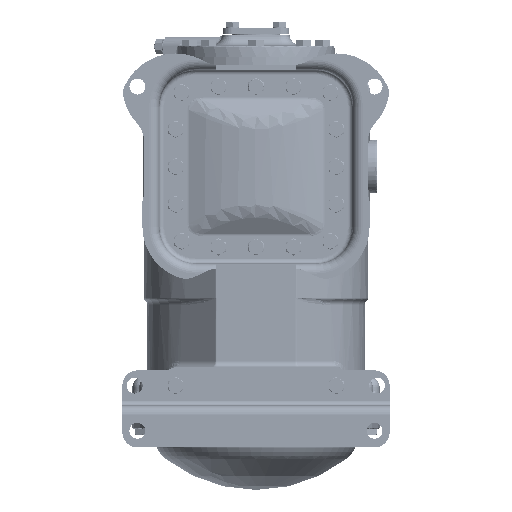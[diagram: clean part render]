
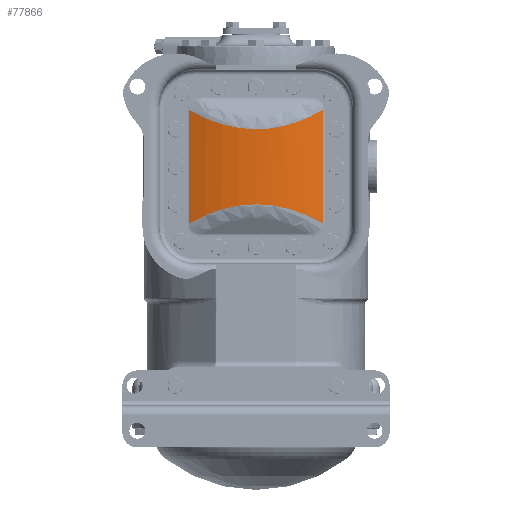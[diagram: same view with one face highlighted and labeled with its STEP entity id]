
A CAD part, front view. The second image highlights one B-rep face of the part: STEP entity #77866.
In plain terms, the highlighted cylindrical face has radius 168.148 mm (diameter 336.296 mm), a partial arc.
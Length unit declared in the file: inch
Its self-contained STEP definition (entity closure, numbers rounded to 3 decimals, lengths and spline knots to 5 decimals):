
#75248=CARTESIAN_POINT('',(7.37121,-0.23228,
-2.00103));
#75263=DIRECTION('',(0.,0.,-1.));
#75264=VECTOR('',#75263,4.24595);
#75265=CARTESIAN_POINT('',(7.37121,-0.23228,
-2.00103));
#75266=LINE('',#75265,#75264);
#75267=CARTESIAN_POINT('',(7.37121,-0.23228,
-6.24697));
#75268=CARTESIAN_POINT('',(7.26402,-0.27592,
-6.1828));
#75269=CARTESIAN_POINT('',(7.04866,-0.35703,
-6.06352));
#75270=CARTESIAN_POINT('',(6.72476,-0.46025,
-5.91175));
#75271=CARTESIAN_POINT('',(6.39901,-0.54605,
-5.7856));
#75272=CARTESIAN_POINT('',(6.07039,-0.61501,
-5.6842));
#75273=CARTESIAN_POINT('',(5.73725,-0.66747,
-5.60706));
#75274=CARTESIAN_POINT('',(5.39685,-0.70336,
-5.55429));
#75275=CARTESIAN_POINT('',(5.04898,-0.72173,
-5.52727));
#75276=CARTESIAN_POINT('',(4.69917,-0.72168,
-5.52735));
#75277=CARTESIAN_POINT('',(4.35154,-0.70322,
-5.55449));
#75278=CARTESIAN_POINT('',(4.01134,-0.66728,
-5.60734));
#75279=CARTESIAN_POINT('',(3.6784,-0.61478,
-5.68454));
#75280=CARTESIAN_POINT('',(3.35003,-0.54582,
-5.78594));
#75281=CARTESIAN_POINT('',(3.02457,-0.46005,
-5.91205));
#75282=CARTESIAN_POINT('',(2.70099,-0.3569,
-6.06372));
#75283=CARTESIAN_POINT('',(2.48586,-0.27587,
-6.18288));
#75284=CARTESIAN_POINT('',(2.37879,-0.23228,
-6.24697));
#75286=DIRECTION('',(0.,0.,1.));
#75287=VECTOR('',#75286,4.24595);
#75288=CARTESIAN_POINT('',(2.37879,-0.23228,
-6.24697));
#75289=LINE('',#75288,#75287);
#75290=CARTESIAN_POINT('',(2.37879,-0.23228,
-2.00103));
#75291=CARTESIAN_POINT('',(2.48582,-0.27585,
-2.0651));
#75292=CARTESIAN_POINT('',(2.70088,-0.35686,
-2.18423));
#75293=CARTESIAN_POINT('',(3.02442,-0.46001,
-2.33588));
#75294=CARTESIAN_POINT('',(3.34992,-0.54579,
-2.46202));
#75295=CARTESIAN_POINT('',(3.67841,-0.61478,
-2.56347));
#75296=CARTESIAN_POINT('',(4.01155,-0.66731,
-2.64071));
#75297=CARTESIAN_POINT('',(4.35203,-0.70327,
-2.69358));
#75298=CARTESIAN_POINT('',(4.69997,-0.72171,
-2.72069));
#75299=CARTESIAN_POINT('',(5.04979,-0.72171,
-2.7207));
#75300=CARTESIAN_POINT('',(5.39738,-0.70331,
-2.69364));
#75301=CARTESIAN_POINT('',(5.73752,-0.66743,
-2.64088));
#75302=CARTESIAN_POINT('',(6.07049,-0.61499,
-2.56377));
#75303=CARTESIAN_POINT('',(6.399,-0.54605,
-2.4624));
#75304=CARTESIAN_POINT('',(6.72471,-0.46027,
-2.33627));
#75305=CARTESIAN_POINT('',(7.04862,-0.35705,
-2.1845));
#75306=CARTESIAN_POINT('',(7.264,-0.27593,
-2.06521));
#75307=CARTESIAN_POINT('',(7.37121,-0.23228,
-2.00103));
#75343=CARTESIAN_POINT('',(2.37879,-0.23228,
-6.24697));
#75494=VERTEX_POINT('',#75248);
#75497=CARTESIAN_POINT('',(7.37121,-0.23228,
-6.24697));
#75498=VERTEX_POINT('',#75497);
#75507=VERTEX_POINT('',#75343);
#75509=CARTESIAN_POINT('',(2.37879,-0.23228,
-2.00103));
#75510=VERTEX_POINT('',#75509);
#77852=CARTESIAN_POINT('',(4.875,5.89906,-1.6315));
#77853=DIRECTION('',(0.,0.,-1.));
#77854=DIRECTION('',(0.,-1.,0.));
#77855=AXIS2_PLACEMENT_3D('',#77852,#77853,#77854);
#77856=CYLINDRICAL_SURFACE('',#77855,6.62);
#77858=ORIENTED_EDGE('',*,*,#77857,.T.);
#77860=ORIENTED_EDGE('',*,*,#77859,.T.);
#77862=ORIENTED_EDGE('',*,*,#77861,.T.);
#77863=ORIENTED_EDGE('',*,*,#77843,.T.);
#77864=EDGE_LOOP('',(#77858,#77860,#77862,#77863));
#77865=FACE_OUTER_BOUND('',#77864,.F.);
#75285=B_SPLINE_CURVE_WITH_KNOTS('',3,(#75267,#75268,#75269,#75270,#75271,
#75272,#75273,#75274,#75275,#75276,#75277,#75278,#75279,#75280,#75281,#75282,
#75283,#75284),.UNSPECIFIED.,.F.,.F.,(4,1,1,1,1,1,1,1,1,1,1,1,1,1,1,4),(0.,
0.06667,0.13333,0.2,0.26667,0.33333,
0.4,0.46667,0.53333,0.6,0.66667,
0.73333,0.8,0.86667,0.93333,1.),
.UNSPECIFIED.);
#75308=B_SPLINE_CURVE_WITH_KNOTS('',3,(#75290,#75291,#75292,#75293,#75294,
#75295,#75296,#75297,#75298,#75299,#75300,#75301,#75302,#75303,#75304,#75305,
#75306,#75307),.UNSPECIFIED.,.F.,.F.,(4,1,1,1,1,1,1,1,1,1,1,1,1,1,1,4),(0.,
0.06667,0.13333,0.2,0.26667,0.33333,
0.4,0.46667,0.53333,0.6,0.66667,
0.73333,0.8,0.86667,0.93333,1.),
.UNSPECIFIED.);
#77843=EDGE_CURVE('',#75510,#75494,#75308,.T.);
#77857=EDGE_CURVE('',#75494,#75498,#75266,.T.);
#77859=EDGE_CURVE('',#75498,#75507,#75285,.T.);
#77861=EDGE_CURVE('',#75507,#75510,#75289,.T.);
#77866=ADVANCED_FACE('',(#77865),#77856,.T.);
